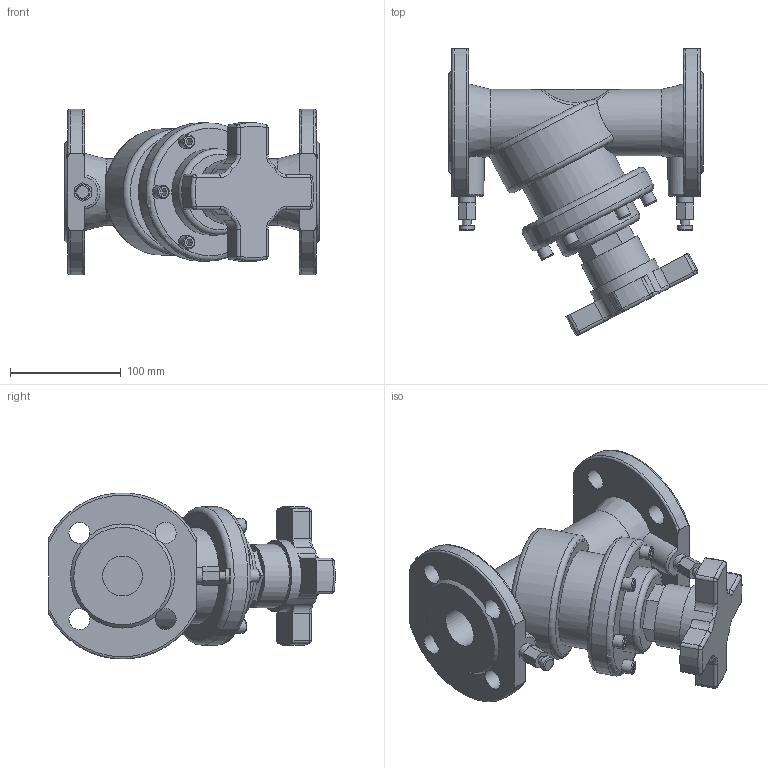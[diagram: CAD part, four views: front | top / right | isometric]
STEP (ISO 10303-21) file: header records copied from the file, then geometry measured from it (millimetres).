
FILE_DESCRIPTION(('STEP AP203'), '1');
FILE_NAME('3D_347-040-16', '', ('UNSPECIFIED'), ('UNSPECIFIED'), 'C3D Converter', 'C3D Toolkit', '');
FILE_SCHEMA(('CONFIG_CONTROL_DESIGN'));
Length unit declared in the file: millimetre
Bounding box: 230 x 258.38 x 149.73 mm (x, y, z)
Volume: 2128143.9 mm3; surface area: 206641.9 mm2
Topology: 1 solids, 1 shells, 247 faces, 680 edges, 446 vertices
Faces by surface type: plane 125, cylinder 66, torus 36, sphere 8, bspline 8, cone 4
Full cylindrical faces by diameter (mm): 8 x2, 12 x6, 13 x2, 15 x2, 19 x8, 36 x2, 57 x1, 60 x1, 65 x1, 78 x1, 87 x1, 125 x1
Entity records: 18780 total; most frequent: CARTESIAN_POINT 10570, DIRECTION 1305, ORIENTED_EDGE 1268, EDGE_CURVE 634, AXIS2_PLACEMENT_3D 524, VERTEX_POINT 445, EDGE_LOOP 319, FACE_BOUND 309
